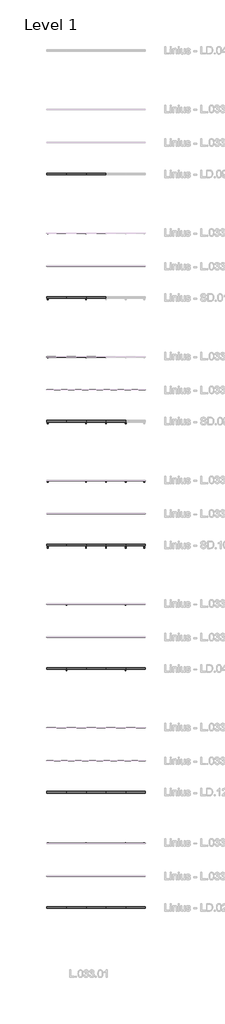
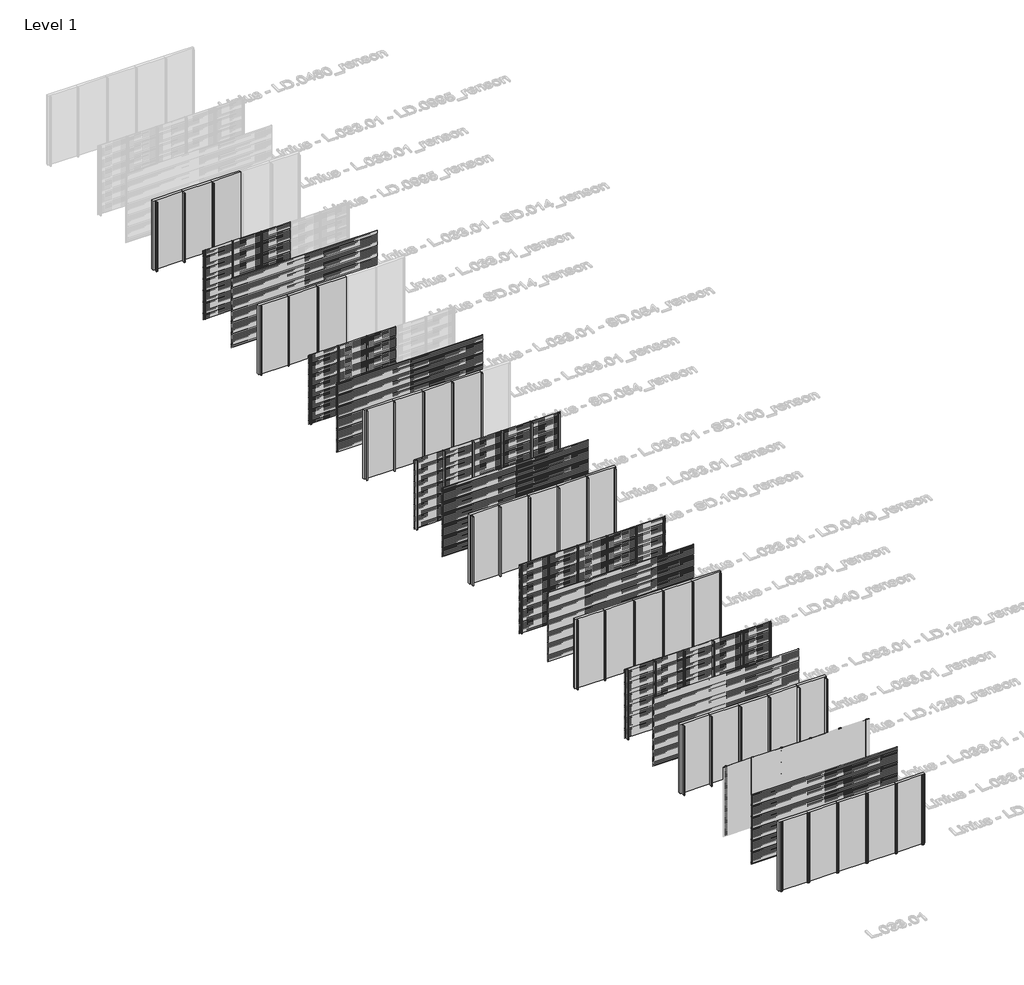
# One storey, part 1 of 507: 65 members, 62 plates.
"""IFC4 building model written with IfcOpenShell, lengths in millimetres."""

from ifc_helpers import new_model, si_unit, origin, origin_with_axes, place, context, project, spatial, polyline, outline, extrude, transform, mapped, element, save
from components import rectangular_mullion_fb497acc, rectangular_mullion_3facce28, rectangular_mullion_6cf2c509, rectangular_mullion_8b77bd57, rectangular_mullion_2c867e25, rectangular_mullion_7803f5c4, rectangular_mullion_82152e2f, rectangular_mullion_bd250e2e, rectangular_mullion_2b84ad7e, rectangular_mullion_9b796d85, rectangular_mullion_6132f1f1, rectangular_mullion_8f153c19, rectangular_mullion_5b30f3fd, rectangular_mullion_5e0e8e0a, rectangular_mullion_d2d38772, rectangular_mullion_efb80f74, rectangular_mullion_aaa1fb1b, rectangular_mullion_ea9d012c, rectangular_mullion_d7a6ae85, rectangular_mullion_1457c40f, rectangular_mullion_7ff0ea34, empty_system_panel_empty_aabbdda4

model = new_model("IFC4")

# Units and contexts
model_context = context("Model", 3, world=origin())
ifc_project = project(units=[si_unit("LENGTHUNIT", "METRE", prefix="MILLI")], contexts=[model_context])

# Site, building, storey
site = spatial("IfcSite", under=ifc_project)
building = spatial("IfcBuilding", under=site)
storey = spatial("IfcBuildingStorey", under=building, Name="Level 1", Elevation=0.0)

# Members
placement = place(None, origin())
rectangular_mullion_shape = rectangular_mullion_fb497acc(model_context)
element("IfcMember", 1, ObjectType="Rectangular Mullion : LD.0995_renson", at=placement, inside=storey, context=model_context, shape_type="MappedRepresentation", body=[
    mapped(rectangular_mullion_shape, transform((47366.6208097, 47481.0540136, 0.0), x_axis=(-1.0, 0.0, 0.0), y_axis=(0.0, 1.0, 0.0), z_axis=(0.0, 0.0, -1.0))),
])
element("IfcMember", 2, ObjectType="Rectangular Mullion : LD.0995_renson", at=placement, inside=storey, context=model_context, shape_type="MappedRepresentation", body=[
    mapped(rectangular_mullion_shape, transform((46166.6208099, 47481.0540136, 0.0), x_axis=(-1.0, 0.0, 0.0), y_axis=(0.0, 1.0, 0.0), z_axis=(0.0, 0.0, -1.0))),
])
rectangular_mullion_2_shape = rectangular_mullion_3facce28(model_context)
element("IfcMember", 3, ObjectType="Rectangular Mullion : SD.014_renson", at=placement, inside=storey, context=model_context, shape_type="MappedRepresentation", body=[
    mapped(rectangular_mullion_2_shape, transform((47366.6208097, 43981.0540136, 0.0), x_axis=(-1.0, 0.0, 0.0), y_axis=(0.0, 1.0, 0.0), z_axis=(0.0, 0.0, -1.0))),
])
element("IfcMember", 4, ObjectType="Rectangular Mullion : SD.014_renson", at=placement, inside=storey, context=model_context, shape_type="MappedRepresentation", body=[
    mapped(rectangular_mullion_2_shape, transform((46166.6208099, 43981.0540136, 0.0), x_axis=(-1.0, 0.0, 0.0), y_axis=(0.0, 1.0, 0.0), z_axis=(0.0, 0.0, -1.0))),
])
element("IfcMember", 5, ObjectType="Rectangular Mullion : SD.014_renson", at=placement, inside=storey, context=model_context, shape_type="MappedRepresentation", body=[
    mapped(rectangular_mullion_2_shape, transform((47366.6208097, 39981.0540136, 0.0), x_axis=(-1.0, 0.0, 0.0), y_axis=(0.0, 1.0, 0.0), z_axis=(0.0, 0.0, -1.0))),
])
element("IfcMember", 6, ObjectType="Rectangular Mullion : SD.014_renson", at=placement, inside=storey, context=model_context, shape_type="MappedRepresentation", body=[
    mapped(rectangular_mullion_2_shape, transform((46166.6208099, 39981.0540136, 0.0), x_axis=(-1.0, 0.0, 0.0), y_axis=(0.0, 1.0, 0.0), z_axis=(0.0, 0.0, -1.0))),
])
rectangular_mullion_3_shape = rectangular_mullion_6cf2c509(model_context)
element("IfcMember", 7, ObjectType="Rectangular Mullion : SD.054_renson", at=placement, inside=storey, context=model_context, shape_type="MappedRepresentation", body=[
    mapped(rectangular_mullion_3_shape, transform((47366.6208097, 36481.0540136, 0.0), x_axis=(-1.0, 0.0, 0.0), y_axis=(0.0, 1.0, 0.0), z_axis=(0.0, 0.0, -1.0))),
])
element("IfcMember", 8, ObjectType="Rectangular Mullion : SD.054_renson", at=placement, inside=storey, context=model_context, shape_type="MappedRepresentation", body=[
    mapped(rectangular_mullion_3_shape, transform((46166.6208099, 36481.0540136, 0.0), x_axis=(-1.0, 0.0, 0.0), y_axis=(0.0, 1.0, 0.0), z_axis=(0.0, 0.0, -1.0))),
])
element("IfcMember", 9, ObjectType="Rectangular Mullion : SD.054_renson", at=placement, inside=storey, context=model_context, shape_type="MappedRepresentation", body=[
    mapped(rectangular_mullion_3_shape, transform((49766.6208095, 32481.0540136, 0.0), x_axis=(-1.0, 0.0, 0.0), y_axis=(0.0, 1.0, 0.0), z_axis=(0.0, 0.0, -1.0))),
])
element("IfcMember", 10, ObjectType="Rectangular Mullion : SD.054_renson", at=placement, inside=storey, context=model_context, shape_type="MappedRepresentation", body=[
    mapped(rectangular_mullion_3_shape, transform((48566.6208096, 32481.0540136, 0.0), x_axis=(-1.0, 0.0, 0.0), y_axis=(0.0, 1.0, 0.0), z_axis=(0.0, 0.0, -1.0))),
])
element("IfcMember", 11, ObjectType="Rectangular Mullion : SD.054_renson", at=placement, inside=storey, context=model_context, shape_type="MappedRepresentation", body=[
    mapped(rectangular_mullion_3_shape, transform((47366.6208097, 32481.0540136, 0.0), x_axis=(-1.0, 0.0, 0.0), y_axis=(0.0, 1.0, 0.0), z_axis=(0.0, 0.0, -1.0))),
])
element("IfcMember", 12, ObjectType="Rectangular Mullion : SD.054_renson", at=placement, inside=storey, context=model_context, shape_type="MappedRepresentation", body=[
    mapped(rectangular_mullion_3_shape, transform((46166.6208099, 32481.0540136, 0.0), x_axis=(-1.0, 0.0, 0.0), y_axis=(0.0, 1.0, 0.0), z_axis=(0.0, 0.0, -1.0))),
])
rectangular_mullion_4_shape = rectangular_mullion_8b77bd57(model_context)
element("IfcMember", 13, ObjectType="Rectangular Mullion : SD.100_renson", at=placement, inside=storey, context=model_context, shape_type="MappedRepresentation", body=[
    mapped(rectangular_mullion_4_shape, transform((49766.6208095, 28981.0540136, 0.0), x_axis=(-1.0, 0.0, 0.0), y_axis=(0.0, 1.0, 0.0), z_axis=(0.0, 0.0, -1.0))),
])
element("IfcMember", 14, ObjectType="Rectangular Mullion : SD.100_renson", at=placement, inside=storey, context=model_context, shape_type="MappedRepresentation", body=[
    mapped(rectangular_mullion_4_shape, transform((48566.6208096, 28981.0540136, 0.0), x_axis=(-1.0, 0.0, 0.0), y_axis=(0.0, 1.0, 0.0), z_axis=(0.0, 0.0, -1.0))),
])
element("IfcMember", 15, ObjectType="Rectangular Mullion : SD.100_renson", at=placement, inside=storey, context=model_context, shape_type="MappedRepresentation", body=[
    mapped(rectangular_mullion_4_shape, transform((47366.6208097, 28981.0540136, 0.0), x_axis=(-1.0, 0.0, 0.0), y_axis=(0.0, 1.0, 0.0), z_axis=(0.0, 0.0, -1.0))),
])
element("IfcMember", 16, ObjectType="Rectangular Mullion : SD.100_renson", at=placement, inside=storey, context=model_context, shape_type="MappedRepresentation", body=[
    mapped(rectangular_mullion_4_shape, transform((46166.6208099, 28981.0540136, 0.0), x_axis=(-1.0, 0.0, 0.0), y_axis=(0.0, 1.0, 0.0), z_axis=(0.0, 0.0, -1.0))),
])
element("IfcMember", 17, ObjectType="Rectangular Mullion : SD.100_renson", at=placement, inside=storey, context=model_context, shape_type="MappedRepresentation", body=[
    mapped(rectangular_mullion_4_shape, transform((49766.6208095, 24981.0540136, 0.0), x_axis=(-1.0, 0.0, 0.0), y_axis=(0.0, 1.0, 0.0), z_axis=(0.0, 0.0, -1.0))),
])
element("IfcMember", 18, ObjectType="Rectangular Mullion : SD.100_renson", at=placement, inside=storey, context=model_context, shape_type="MappedRepresentation", body=[
    mapped(rectangular_mullion_4_shape, transform((48566.6208096, 24981.0540136, 0.0), x_axis=(-1.0, 0.0, 0.0), y_axis=(0.0, 1.0, 0.0), z_axis=(0.0, 0.0, -1.0))),
])
element("IfcMember", 19, ObjectType="Rectangular Mullion : SD.100_renson", at=placement, inside=storey, context=model_context, shape_type="MappedRepresentation", body=[
    mapped(rectangular_mullion_4_shape, transform((47366.6208097, 24981.0540136, 0.0), x_axis=(-1.0, 0.0, 0.0), y_axis=(0.0, 1.0, 0.0), z_axis=(0.0, 0.0, -1.0))),
])
element("IfcMember", 20, ObjectType="Rectangular Mullion : SD.100_renson", at=placement, inside=storey, context=model_context, shape_type="MappedRepresentation", body=[
    mapped(rectangular_mullion_4_shape, transform((46166.6208099, 24981.0540136, 0.0), x_axis=(-1.0, 0.0, 0.0), y_axis=(0.0, 1.0, 0.0), z_axis=(0.0, 0.0, -1.0))),
])
rectangular_mullion_5_shape = rectangular_mullion_2c867e25(model_context)
element("IfcMember", 21, ObjectType="Rectangular Mullion : LD.0440_renson", at=placement, inside=storey, context=model_context, shape_type="MappedRepresentation", body=[
    mapped(rectangular_mullion_5_shape, transform((49766.6208095, 21481.0540136, 0.0), x_axis=(-1.0, 0.0, 0.0), y_axis=(0.0, 1.0, 0.0), z_axis=(0.0, 0.0, -1.0))),
])
element("IfcMember", 22, ObjectType="Rectangular Mullion : LD.0440_renson", at=placement, inside=storey, context=model_context, shape_type="MappedRepresentation", body=[
    mapped(rectangular_mullion_5_shape, transform((48566.6208096, 21481.0540136, 0.0), x_axis=(-1.0, 0.0, 0.0), y_axis=(0.0, 1.0, 0.0), z_axis=(0.0, 0.0, -1.0))),
])
element("IfcMember", 23, ObjectType="Rectangular Mullion : LD.0440_renson", at=placement, inside=storey, context=model_context, shape_type="MappedRepresentation", body=[
    mapped(rectangular_mullion_5_shape, transform((47366.6208097, 21481.0540136, 0.0), x_axis=(-1.0, 0.0, 0.0), y_axis=(0.0, 1.0, 0.0), z_axis=(0.0, 0.0, -1.0))),
])
element("IfcMember", 24, ObjectType="Rectangular Mullion : LD.0440_renson", at=placement, inside=storey, context=model_context, shape_type="MappedRepresentation", body=[
    mapped(rectangular_mullion_5_shape, transform((46166.6208099, 21481.0540136, 0.0), x_axis=(-1.0, 0.0, 0.0), y_axis=(0.0, 1.0, 0.0), z_axis=(0.0, 0.0, -1.0))),
])
element("IfcMember", 25, ObjectType="Rectangular Mullion : LD.0440_renson", at=placement, inside=storey, context=model_context, shape_type="MappedRepresentation", body=[
    mapped(rectangular_mullion_5_shape, transform((49766.6208095, 17481.0540136, 0.0), x_axis=(-1.0, 0.0, 0.0), y_axis=(0.0, 1.0, 0.0), z_axis=(0.0, 0.0, -1.0))),
])
element("IfcMember", 26, ObjectType="Rectangular Mullion : LD.0440_renson", at=placement, inside=storey, context=model_context, shape_type="MappedRepresentation", body=[
    mapped(rectangular_mullion_5_shape, transform((48566.6208096, 17481.0540136, 0.0), x_axis=(-1.0, 0.0, 0.0), y_axis=(0.0, 1.0, 0.0), z_axis=(0.0, 0.0, -1.0))),
])
element("IfcMember", 27, ObjectType="Rectangular Mullion : LD.0440_renson", at=placement, inside=storey, context=model_context, shape_type="MappedRepresentation", body=[
    mapped(rectangular_mullion_5_shape, transform((47366.6208097, 17481.0540136, 0.0), x_axis=(-1.0, 0.0, 0.0), y_axis=(0.0, 1.0, 0.0), z_axis=(0.0, 0.0, -1.0))),
])
element("IfcMember", 28, ObjectType="Rectangular Mullion : LD.0440_renson", at=placement, inside=storey, context=model_context, shape_type="MappedRepresentation", body=[
    mapped(rectangular_mullion_5_shape, transform((46166.6208099, 17481.0540136, 0.0), x_axis=(-1.0, 0.0, 0.0), y_axis=(0.0, 1.0, 0.0), z_axis=(0.0, 0.0, -1.0))),
])
rectangular_mullion_6_shape = rectangular_mullion_7803f5c4(model_context)
element("IfcMember", 29, ObjectType="Rectangular Mullion : LD.1250_renson", at=placement, inside=storey, context=model_context, shape_type="MappedRepresentation", body=[
    mapped(rectangular_mullion_6_shape, transform((49766.6208095, 13981.0540136, 0.0), x_axis=(-1.0, 0.0, 0.0), y_axis=(0.0, 1.0, 0.0), z_axis=(0.0, 0.0, -1.0))),
])
element("IfcMember", 30, ObjectType="Rectangular Mullion : LD.1250_renson", at=placement, inside=storey, context=model_context, shape_type="MappedRepresentation", body=[
    mapped(rectangular_mullion_6_shape, transform((48566.6208096, 13981.0540136, 0.0), x_axis=(-1.0, 0.0, 0.0), y_axis=(0.0, 1.0, 0.0), z_axis=(0.0, 0.0, -1.0))),
])
element("IfcMember", 31, ObjectType="Rectangular Mullion : LD.1250_renson", at=placement, inside=storey, context=model_context, shape_type="MappedRepresentation", body=[
    mapped(rectangular_mullion_6_shape, transform((47366.6208097, 13981.0540136, 0.0), x_axis=(-1.0, 0.0, 0.0), y_axis=(0.0, 1.0, 0.0), z_axis=(0.0, 0.0, -1.0))),
])
element("IfcMember", 32, ObjectType="Rectangular Mullion : LD.1250_renson", at=placement, inside=storey, context=model_context, shape_type="MappedRepresentation", body=[
    mapped(rectangular_mullion_6_shape, transform((46166.6208099, 13981.0540136, 0.0), x_axis=(-1.0, 0.0, 0.0), y_axis=(0.0, 1.0, 0.0), z_axis=(0.0, 0.0, -1.0))),
])
element("IfcMember", 33, ObjectType="Rectangular Mullion : LD.1250_renson", at=placement, inside=storey, context=model_context, shape_type="MappedRepresentation", body=[
    mapped(rectangular_mullion_6_shape, transform((49766.6208095, 9981.0540136, 0.0), x_axis=(-1.0, 0.0, 0.0), y_axis=(0.0, 1.0, 0.0), z_axis=(0.0, 0.0, -1.0))),
])
element("IfcMember", 34, ObjectType="Rectangular Mullion : LD.1250_renson", at=placement, inside=storey, context=model_context, shape_type="MappedRepresentation", body=[
    mapped(rectangular_mullion_6_shape, transform((48566.6208096, 9981.0540136, 0.0), x_axis=(-1.0, 0.0, 0.0), y_axis=(0.0, 1.0, 0.0), z_axis=(0.0, 0.0, -1.0))),
])
element("IfcMember", 35, ObjectType="Rectangular Mullion : LD.1250_renson", at=placement, inside=storey, context=model_context, shape_type="MappedRepresentation", body=[
    mapped(rectangular_mullion_6_shape, transform((47366.6208097, 9981.0540136, 0.0), x_axis=(-1.0, 0.0, 0.0), y_axis=(0.0, 1.0, 0.0), z_axis=(0.0, 0.0, -1.0))),
])
element("IfcMember", 36, ObjectType="Rectangular Mullion : LD.1250_renson", at=placement, inside=storey, context=model_context, shape_type="MappedRepresentation", body=[
    mapped(rectangular_mullion_6_shape, transform((46166.6208099, 9981.0540136, 0.0), x_axis=(-1.0, 0.0, 0.0), y_axis=(0.0, 1.0, 0.0), z_axis=(0.0, 0.0, -1.0))),
])
rectangular_mullion_7_shape = rectangular_mullion_82152e2f(model_context)
element("IfcMember", 37, ObjectType="Rectangular Mullion : LD.0240_renson", at=placement, inside=storey, context=model_context, shape_type="MappedRepresentation", body=[
    mapped(rectangular_mullion_7_shape, transform((49766.6208095, 2985.0270068, 0.0), x_axis=(-1.0, 0.0, 0.0), y_axis=(0.0, 1.0, 0.0), z_axis=(0.0, 0.0, -1.0))),
])
element("IfcMember", 38, ObjectType="Rectangular Mullion : LD.0240_renson", at=placement, inside=storey, context=model_context, shape_type="MappedRepresentation", body=[
    mapped(rectangular_mullion_7_shape, transform((48566.6208096, 2985.0270068, 0.0), x_axis=(-1.0, 0.0, 0.0), y_axis=(0.0, 1.0, 0.0), z_axis=(0.0, 0.0, -1.0))),
])
element("IfcMember", 39, ObjectType="Rectangular Mullion : LD.0240_renson", at=placement, inside=storey, context=model_context, shape_type="MappedRepresentation", body=[
    mapped(rectangular_mullion_7_shape, transform((47366.6208097, 2985.0270068, 0.0), x_axis=(-1.0, 0.0, 0.0), y_axis=(0.0, 1.0, 0.0), z_axis=(0.0, 0.0, -1.0))),
])
element("IfcMember", 40, ObjectType="Rectangular Mullion : LD.0240_renson", at=placement, inside=storey, context=model_context, shape_type="MappedRepresentation", body=[
    mapped(rectangular_mullion_7_shape, transform((46166.6208099, 2985.0270068, 0.0), x_axis=(-1.0, 0.0, 0.0), y_axis=(0.0, 1.0, 0.0), z_axis=(0.0, 0.0, -1.0))),
])
rectangular_mullion_8_shape = rectangular_mullion_bd250e2e(model_context)
element("IfcMember", 41, ObjectType="Rectangular Mullion : LD.0995 - left_renson", at=placement, inside=storey, context=model_context, shape_type="MappedRepresentation", body=[
    mapped(rectangular_mullion_8_shape, transform((44966.6208097, 47481.0540136, 0.0), x_axis=(-1.0, 0.0, 0.0), y_axis=(0.0, 1.0, 0.0), z_axis=(0.0, 0.0, -1.0))),
])
rectangular_mullion_9_shape = rectangular_mullion_2b84ad7e(model_context)
element("IfcMember", 42, ObjectType="Rectangular Mullion : SD.014 - left_renson", at=placement, inside=storey, context=model_context, shape_type="MappedRepresentation", body=[
    mapped(rectangular_mullion_9_shape, transform((44966.6208097, 43981.0540136, 0.0), x_axis=(-1.0, 0.0, 0.0), y_axis=(0.0, 1.0, 0.0), z_axis=(0.0, 0.0, -1.0))),
])
element("IfcMember", 43, ObjectType="Rectangular Mullion : SD.014 - left_renson", at=placement, inside=storey, context=model_context, shape_type="MappedRepresentation", body=[
    mapped(rectangular_mullion_9_shape, transform((44966.6208097, 39981.0540136, 0.0), x_axis=(-1.0, 0.0, 0.0), y_axis=(0.0, 1.0, 0.0), z_axis=(0.0, 0.0, -1.0))),
])
rectangular_mullion_10_shape = rectangular_mullion_9b796d85(model_context)
element("IfcMember", 44, ObjectType="Rectangular Mullion : SD.054 - left_renson", at=placement, inside=storey, context=model_context, shape_type="MappedRepresentation", body=[
    mapped(rectangular_mullion_10_shape, transform((44966.6208097, 36481.0540136, 0.0), x_axis=(-1.0, 0.0, 0.0), y_axis=(0.0, 1.0, 0.0), z_axis=(0.0, 0.0, -1.0))),
])
element("IfcMember", 45, ObjectType="Rectangular Mullion : SD.054 - left_renson", at=placement, inside=storey, context=model_context, shape_type="MappedRepresentation", body=[
    mapped(rectangular_mullion_10_shape, transform((44966.6208097, 32481.0540136, 0.0), x_axis=(-1.0, 0.0, 0.0), y_axis=(0.0, 1.0, 0.0), z_axis=(0.0, 0.0, -1.0))),
])
rectangular_mullion_11_shape = rectangular_mullion_6132f1f1(model_context)
element("IfcMember", 46, ObjectType="Rectangular Mullion : SD.100 - left_renson", at=placement, inside=storey, context=model_context, shape_type="MappedRepresentation", body=[
    mapped(rectangular_mullion_11_shape, transform((44966.6208097, 28981.0540136, 0.0), x_axis=(-1.0, 0.0, 0.0), y_axis=(0.0, 1.0, 0.0), z_axis=(0.0, 0.0, -1.0))),
])
element("IfcMember", 47, ObjectType="Rectangular Mullion : SD.100 - left_renson", at=placement, inside=storey, context=model_context, shape_type="MappedRepresentation", body=[
    mapped(rectangular_mullion_11_shape, transform((44966.6208097, 24981.0540136, 0.0), x_axis=(-1.0, 0.0, 0.0), y_axis=(0.0, 1.0, 0.0), z_axis=(0.0, 0.0, -1.0))),
])
rectangular_mullion_12_shape = rectangular_mullion_8f153c19(model_context)
element("IfcMember", 48, ObjectType="Rectangular Mullion : SD.100 - right_renson", at=placement, inside=storey, context=model_context, shape_type="MappedRepresentation", body=[
    mapped(rectangular_mullion_12_shape, transform((50966.6208097, 28981.0540136, 3000.0), x_axis=(1.0, 0.0, 0.0), y_axis=(0.0, 1.0, 0.0), z_axis=(0.0, 0.0, 1.0))),
])
element("IfcMember", 49, ObjectType="Rectangular Mullion : SD.100 - right_renson", at=placement, inside=storey, context=model_context, shape_type="MappedRepresentation", body=[
    mapped(rectangular_mullion_12_shape, transform((50966.6208097, 24981.0540136, 3000.0), x_axis=(1.0, 0.0, 0.0), y_axis=(0.0, 1.0, 0.0), z_axis=(0.0, 0.0, 1.0))),
])
rectangular_mullion_13_shape = rectangular_mullion_5b30f3fd(model_context)
element("IfcMember", 50, ObjectType="Rectangular Mullion : LD.0440 - left_renson", at=placement, inside=storey, context=model_context, shape_type="MappedRepresentation", body=[
    mapped(rectangular_mullion_13_shape, transform((44966.6208097, 21481.0540136, 0.0), x_axis=(-1.0, 0.0, 0.0), y_axis=(0.0, 1.0, 0.0), z_axis=(0.0, 0.0, -1.0))),
])
element("IfcMember", 51, ObjectType="Rectangular Mullion : LD.0440 - left_renson", at=placement, inside=storey, context=model_context, shape_type="MappedRepresentation", body=[
    mapped(rectangular_mullion_13_shape, transform((44966.6208097, 17481.0540136, 0.0), x_axis=(-1.0, 0.0, 0.0), y_axis=(0.0, 1.0, 0.0), z_axis=(0.0, 0.0, -1.0))),
])
rectangular_mullion_14_shape = rectangular_mullion_5e0e8e0a(model_context)
element("IfcMember", 52, ObjectType="Rectangular Mullion : LD.0440 - right_renson", at=placement, inside=storey, context=model_context, shape_type="MappedRepresentation", body=[
    mapped(rectangular_mullion_14_shape, transform((50966.6208097, 21481.0540136, 3000.0), x_axis=(1.0, 0.0, 0.0), y_axis=(0.0, 1.0, 0.0), z_axis=(0.0, 0.0, 1.0))),
])
element("IfcMember", 53, ObjectType="Rectangular Mullion : LD.0440 - right_renson", at=placement, inside=storey, context=model_context, shape_type="MappedRepresentation", body=[
    mapped(rectangular_mullion_14_shape, transform((50966.6208097, 17481.0540136, 3000.0), x_axis=(1.0, 0.0, 0.0), y_axis=(0.0, 1.0, 0.0), z_axis=(0.0, 0.0, 1.0))),
])
rectangular_mullion_15_shape = rectangular_mullion_d2d38772(model_context)
element("IfcMember", 54, ObjectType="Rectangular Mullion : LD.1250 - left_renson", at=placement, inside=storey, context=model_context, shape_type="MappedRepresentation", body=[
    mapped(rectangular_mullion_15_shape, transform((44966.6208097, 13981.0540136, 0.0), x_axis=(-1.0, 0.0, 0.0), y_axis=(0.0, 1.0, 0.0), z_axis=(0.0, 0.0, -1.0))),
])
element("IfcMember", 55, ObjectType="Rectangular Mullion : LD.1250 - left_renson", at=placement, inside=storey, context=model_context, shape_type="MappedRepresentation", body=[
    mapped(rectangular_mullion_15_shape, transform((44966.6208097, 9981.0540136, 0.0), x_axis=(-1.0, 0.0, 0.0), y_axis=(0.0, 1.0, 0.0), z_axis=(0.0, 0.0, -1.0))),
])
rectangular_mullion_16_shape = rectangular_mullion_efb80f74(model_context)
element("IfcMember", 56, ObjectType="Rectangular Mullion : LD.1250 - right_renson", at=placement, inside=storey, context=model_context, shape_type="MappedRepresentation", body=[
    mapped(rectangular_mullion_16_shape, transform((50966.6208097, 13981.0540136, 3000.0), x_axis=(1.0, 0.0, 0.0), y_axis=(0.0, 1.0, 0.0), z_axis=(0.0, 0.0, 1.0))),
])
element("IfcMember", 57, ObjectType="Rectangular Mullion : LD.1250 - right_renson", at=placement, inside=storey, context=model_context, shape_type="MappedRepresentation", body=[
    mapped(rectangular_mullion_16_shape, transform((50966.6208097, 9981.0540136, 3000.0), x_axis=(1.0, 0.0, 0.0), y_axis=(0.0, 1.0, 0.0), z_axis=(0.0, 0.0, 1.0))),
])
rectangular_mullion_17_shape = rectangular_mullion_aaa1fb1b(model_context)
element("IfcMember", 58, ObjectType="Rectangular Mullion : LD.0240 - left_renson", at=placement, inside=storey, context=model_context, shape_type="MappedRepresentation", body=[
    mapped(rectangular_mullion_17_shape, transform((44966.6208097, 2985.0270068, 0.0), x_axis=(-1.0, 0.0, 0.0), y_axis=(0.0, 1.0, 0.0), z_axis=(0.0, 0.0, -1.0))),
])
rectangular_mullion_18_shape = rectangular_mullion_ea9d012c(model_context)
element("IfcMember", 59, ObjectType="Rectangular Mullion : LD.0240 - right_renson", at=placement, inside=storey, context=model_context, shape_type="MappedRepresentation", body=[
    mapped(rectangular_mullion_18_shape, transform((50966.6208097, 2985.0270068, 3000.0), x_axis=(1.0, 0.0, 0.0), y_axis=(0.0, 1.0, 0.0), z_axis=(0.0, 0.0, 1.0))),
])
rectangular_mullion_19_shape = rectangular_mullion_d7a6ae85(model_context)
element("IfcMember", 60, ObjectType="Rectangular Mullion : LD.0240_renson", at=placement, inside=storey, context=model_context, shape_type="MappedRepresentation", body=[
    mapped(rectangular_mullion_19_shape, transform((49766.6208095, 6985.0270068, 0.0), x_axis=(-1.0, 0.0, 0.0), y_axis=(0.0, 1.0, 0.0), z_axis=(0.0, 0.0, -1.0))),
])
element("IfcMember", 61, ObjectType="Rectangular Mullion : LD.0240_renson", at=placement, inside=storey, context=model_context, shape_type="MappedRepresentation", body=[
    mapped(rectangular_mullion_19_shape, transform((48566.6208096, 6985.0270068, 0.0), x_axis=(-1.0, 0.0, 0.0), y_axis=(0.0, 1.0, 0.0), z_axis=(0.0, 0.0, -1.0))),
])
element("IfcMember", 62, ObjectType="Rectangular Mullion : LD.0240_renson", at=placement, inside=storey, context=model_context, shape_type="MappedRepresentation", body=[
    mapped(rectangular_mullion_19_shape, transform((47366.6208097, 6985.0270068, 0.0), x_axis=(-1.0, 0.0, 0.0), y_axis=(0.0, 1.0, 0.0), z_axis=(0.0, 0.0, -1.0))),
])
element("IfcMember", 63, ObjectType="Rectangular Mullion : LD.0240_renson", at=placement, inside=storey, context=model_context, shape_type="MappedRepresentation", body=[
    mapped(rectangular_mullion_19_shape, transform((46166.6208099, 6985.0270068, 0.0), x_axis=(-1.0, 0.0, 0.0), y_axis=(0.0, 1.0, 0.0), z_axis=(0.0, 0.0, -1.0))),
])
rectangular_mullion_20_shape = rectangular_mullion_1457c40f(model_context)
element("IfcMember", 64, ObjectType="Rectangular Mullion : LD.0240 - left_renson", at=placement, inside=storey, context=model_context, shape_type="MappedRepresentation", body=[
    mapped(rectangular_mullion_20_shape, transform((44966.6208097, 6985.0270068, 0.0), x_axis=(-1.0, 0.0, 0.0), y_axis=(0.0, 1.0, 0.0), z_axis=(0.0, 0.0, -1.0))),
])
rectangular_mullion_21_shape = rectangular_mullion_7ff0ea34(model_context)
element("IfcMember", 65, ObjectType="Rectangular Mullion : LD.0240 - right_renson", at=placement, inside=storey, context=model_context, shape_type="MappedRepresentation", body=[
    mapped(rectangular_mullion_21_shape, transform((50966.6208097, 6985.0270068, 3000.0), x_axis=(1.0, 0.0, 0.0), y_axis=(0.0, 1.0, 0.0), z_axis=(0.0, 0.0, 1.0))),
])

# Plates
element("IfcPlate", 66, ObjectType="Linius - L.033.01_renson", at=placement, inside=storey, context=model_context, shape_type="SweptSolid", body=[
    extrude(outline(polyline([(44966.6208097, 43982.0540136), (46166.6208099, 43982.0540136), (46166.6208099, 43980.0540136), (44966.6208097, 43980.0540136), (44966.6208097, 43982.0540136)])), origin_with_axes(), (0.0, 0.0, 1.0), 3000.0),
])
element("IfcPlate", 67, ObjectType="Linius - L.033.01_renson", at=placement, inside=storey, context=model_context, shape_type="SweptSolid", body=[
    extrude(outline(polyline([(46166.6208099, 43982.0540136), (47366.6208097, 43982.0540136), (47366.6208097, 43980.0540136), (46166.6208099, 43980.0540136), (46166.6208099, 43982.0540136)])), origin_with_axes(), (0.0, 0.0, 1.0), 3000.0),
])
element("IfcPlate", 68, ObjectType="Linius - L.033.01_renson", at=placement, inside=storey, context=model_context, shape_type="SweptSolid", body=[
    extrude(outline(polyline([(47366.6208097, 43982.0540136), (48566.6208096, 43982.0540136), (48566.6208096, 43980.0540136), (47366.6208097, 43980.0540136), (47366.6208097, 43982.0540136)])), origin_with_axes(), (0.0, 0.0, 1.0), 3000.0),
])
element("IfcPlate", 69, ObjectType="Linius - L.033.01_renson", at=placement, inside=storey, context=model_context, shape_type="SweptSolid", body=[
    extrude(outline(polyline([(44966.6208097, 41982.0540136), (50966.6208097, 41982.0540136), (50966.6208097, 41980.0540136), (44966.6208097, 41980.0540136), (44966.6208097, 41982.0540136)])), origin_with_axes(), (0.0, 0.0, 1.0), 3000.0),
])
element("IfcPlate", 70, ObjectType="Linius - L.033.01_renson", at=placement, inside=storey, context=model_context, shape_type="SweptSolid", body=[
    extrude(outline(polyline([(44966.6208097, 36482.0540136), (46166.6208099, 36482.0540136), (46166.6208099, 36480.0540136), (44966.6208097, 36480.0540136), (44966.6208097, 36482.0540136)])), origin_with_axes(), (0.0, 0.0, 1.0), 3000.0),
])
element("IfcPlate", 71, ObjectType="Linius - L.033.01_renson", at=placement, inside=storey, context=model_context, shape_type="SweptSolid", body=[
    extrude(outline(polyline([(46166.6208099, 36482.0540136), (47366.6208097, 36482.0540136), (47366.6208097, 36480.0540136), (46166.6208099, 36480.0540136), (46166.6208099, 36482.0540136)])), origin_with_axes(), (0.0, 0.0, 1.0), 3000.0),
])
element("IfcPlate", 72, ObjectType="Linius - L.033.01_renson", at=placement, inside=storey, context=model_context, shape_type="SweptSolid", body=[
    extrude(outline(polyline([(47366.6208097, 36482.0540136), (48566.6208096, 36482.0540136), (48566.6208096, 36480.0540136), (47366.6208097, 36480.0540136), (47366.6208097, 36482.0540136)])), origin_with_axes(), (0.0, 0.0, 1.0), 3000.0),
])
element("IfcPlate", 73, ObjectType="Linius - L.033.01_renson", at=placement, inside=storey, context=model_context, shape_type="SweptSolid", body=[
    extrude(outline(polyline([(44966.6208097, 34482.0540136), (50966.6208097, 34482.0540136), (50966.6208097, 34480.0540136), (44966.6208097, 34480.0540136), (44966.6208097, 34482.0540136)])), origin_with_axes(), (0.0, 0.0, 1.0), 3000.0),
])
element("IfcPlate", 74, ObjectType="Linius - L.033.01_renson", at=placement, inside=storey, context=model_context, shape_type="SweptSolid", body=[
    extrude(outline(polyline([(44966.6208097, 28982.0540136), (46166.6208099, 28982.0540136), (46166.6208099, 28980.0540136), (44966.6208097, 28980.0540136), (44966.6208097, 28982.0540136)])), origin_with_axes(), (0.0, 0.0, 1.0), 3000.0),
])
element("IfcPlate", 75, ObjectType="Linius - L.033.01_renson", at=placement, inside=storey, context=model_context, shape_type="SweptSolid", body=[
    extrude(outline(polyline([(46166.6208099, 28982.0540136), (47366.6208097, 28982.0540136), (47366.6208097, 28980.0540136), (46166.6208099, 28980.0540136), (46166.6208099, 28982.0540136)])), origin_with_axes(), (0.0, 0.0, 1.0), 3000.0),
])
element("IfcPlate", 76, ObjectType="Linius - L.033.01_renson", at=placement, inside=storey, context=model_context, shape_type="SweptSolid", body=[
    extrude(outline(polyline([(47366.6208097, 28982.0540136), (48566.6208096, 28982.0540136), (48566.6208096, 28980.0540136), (47366.6208097, 28980.0540136), (47366.6208097, 28982.0540136)])), origin_with_axes(), (0.0, 0.0, 1.0), 3000.0),
])
element("IfcPlate", 77, ObjectType="Linius - L.033.01_renson", at=placement, inside=storey, context=model_context, shape_type="SweptSolid", body=[
    extrude(outline(polyline([(48566.6208096, 28982.0540136), (49766.6208095, 28982.0540136), (49766.6208095, 28980.0540136), (48566.6208096, 28980.0540136), (48566.6208096, 28982.0540136)])), origin_with_axes(), (0.0, 0.0, 1.0), 3000.0),
])
element("IfcPlate", 78, ObjectType="Linius - L.033.01_renson", at=placement, inside=storey, context=model_context, shape_type="SweptSolid", body=[
    extrude(outline(polyline([(44966.6208097, 26982.0540136), (50966.6208097, 26982.0540136), (50966.6208097, 26980.0540136), (44966.6208097, 26980.0540136), (44966.6208097, 26982.0540136)])), origin_with_axes(), (0.0, 0.0, 1.0), 3000.0),
])
element("IfcPlate", 79, ObjectType="Linius - L.033.01_renson", at=placement, inside=storey, context=model_context, shape_type="SweptSolid", body=[
    extrude(outline(polyline([(44966.6208097, 21482.0540136), (46166.6208099, 21482.0540136), (46166.6208099, 21480.0540136), (44966.6208097, 21480.0540136), (44966.6208097, 21482.0540136)])), origin_with_axes(), (0.0, 0.0, 1.0), 3000.0),
])
element("IfcPlate", 80, ObjectType="Linius - L.033.01_renson", at=placement, inside=storey, context=model_context, shape_type="SweptSolid", body=[
    extrude(outline(polyline([(46166.6208099, 21482.0540136), (47366.6208097, 21482.0540136), (47366.6208097, 21480.0540136), (46166.6208099, 21480.0540136), (46166.6208099, 21482.0540136)])), origin_with_axes(), (0.0, 0.0, 1.0), 3000.0),
])
element("IfcPlate", 81, ObjectType="Linius - L.033.01_renson", at=placement, inside=storey, context=model_context, shape_type="SweptSolid", body=[
    extrude(outline(polyline([(47366.6208097, 21482.0540136), (48566.6208096, 21482.0540136), (48566.6208096, 21480.0540136), (47366.6208097, 21480.0540136), (47366.6208097, 21482.0540136)])), origin_with_axes(), (0.0, 0.0, 1.0), 3000.0),
])
element("IfcPlate", 82, ObjectType="Linius - L.033.01_renson", at=placement, inside=storey, context=model_context, shape_type="SweptSolid", body=[
    extrude(outline(polyline([(48566.6208096, 21482.0540136), (49766.6208095, 21482.0540136), (49766.6208095, 21480.0540136), (48566.6208096, 21480.0540136), (48566.6208096, 21482.0540136)])), origin_with_axes(), (0.0, 0.0, 1.0), 3000.0),
])
element("IfcPlate", 83, ObjectType="Linius - L.033.01_renson", at=placement, inside=storey, context=model_context, shape_type="SweptSolid", body=[
    extrude(outline(polyline([(44966.6208097, 19482.0540136), (50966.6208097, 19482.0540136), (50966.6208097, 19480.0540136), (44966.6208097, 19480.0540136), (44966.6208097, 19482.0540136)])), origin_with_axes(), (0.0, 0.0, 1.0), 3000.0),
])
element("IfcPlate", 84, ObjectType="Linius - L.033.01_renson", at=placement, inside=storey, context=model_context, shape_type="SweptSolid", body=[
    extrude(outline(polyline([(44966.6208097, 13982.0540136), (46166.6208099, 13982.0540136), (46166.6208099, 13980.0540136), (44966.6208097, 13980.0540136), (44966.6208097, 13982.0540136)])), origin_with_axes(), (0.0, 0.0, 1.0), 3000.0),
])
element("IfcPlate", 85, ObjectType="Linius - L.033.01_renson", at=placement, inside=storey, context=model_context, shape_type="SweptSolid", body=[
    extrude(outline(polyline([(46166.6208099, 13982.0540136), (47366.6208097, 13982.0540136), (47366.6208097, 13980.0540136), (46166.6208099, 13980.0540136), (46166.6208099, 13982.0540136)])), origin_with_axes(), (0.0, 0.0, 1.0), 3000.0),
])
element("IfcPlate", 86, ObjectType="Linius - L.033.01_renson", at=placement, inside=storey, context=model_context, shape_type="SweptSolid", body=[
    extrude(outline(polyline([(47366.6208097, 13982.0540136), (48566.6208096, 13982.0540136), (48566.6208096, 13980.0540136), (47366.6208097, 13980.0540136), (47366.6208097, 13982.0540136)])), origin_with_axes(), (0.0, 0.0, 1.0), 3000.0),
])
element("IfcPlate", 87, ObjectType="Linius - L.033.01_renson", at=placement, inside=storey, context=model_context, shape_type="SweptSolid", body=[
    extrude(outline(polyline([(48566.6208096, 13982.0540136), (49766.6208095, 13982.0540136), (49766.6208095, 13980.0540136), (48566.6208096, 13980.0540136), (48566.6208096, 13982.0540136)])), origin_with_axes(), (0.0, 0.0, 1.0), 3000.0),
])
element("IfcPlate", 88, ObjectType="Linius - L.033.01_renson", at=placement, inside=storey, context=model_context, shape_type="SweptSolid", body=[
    extrude(outline(polyline([(44966.6208097, 11982.0540136), (50966.6208097, 11982.0540136), (50966.6208097, 11980.0540136), (44966.6208097, 11980.0540136), (44966.6208097, 11982.0540136)])), origin_with_axes(), (0.0, 0.0, 1.0), 3000.0),
])
element("IfcPlate", 89, ObjectType="Linius - L.033.01_renson", at=placement, inside=storey, context=model_context, shape_type="SweptSolid", body=[
    extrude(outline(polyline([(44966.6208097, 6986.0270068), (46166.6208099, 6986.0270068), (46166.6208099, 6984.0270068), (44966.6208097, 6984.0270068), (44966.6208097, 6986.0270068)])), origin_with_axes(), (0.0, 0.0, 1.0), 3000.0),
])
element("IfcPlate", 90, ObjectType="Linius - L.033.01_renson", at=placement, inside=storey, context=model_context, shape_type="SweptSolid", body=[
    extrude(outline(polyline([(46166.6208099, 6986.0270068), (47366.6208097, 6986.0270068), (47366.6208097, 6984.0270068), (46166.6208099, 6984.0270068), (46166.6208099, 6986.0270068)])), origin_with_axes(), (0.0, 0.0, 1.0), 3000.0),
])
element("IfcPlate", 91, ObjectType="Linius - L.033.01_renson", at=placement, inside=storey, context=model_context, shape_type="SweptSolid", body=[
    extrude(outline(polyline([(47366.6208097, 6986.0270068), (48566.6208096, 6986.0270068), (48566.6208096, 6984.0270068), (47366.6208097, 6984.0270068), (47366.6208097, 6986.0270068)])), origin_with_axes(), (0.0, 0.0, 1.0), 3000.0),
])
element("IfcPlate", 92, ObjectType="Linius - L.033.01_renson", at=placement, inside=storey, context=model_context, shape_type="SweptSolid", body=[
    extrude(outline(polyline([(48566.6208096, 6986.0270068), (49766.6208095, 6986.0270068), (49766.6208095, 6984.0270068), (48566.6208096, 6984.0270068), (48566.6208096, 6986.0270068)])), origin_with_axes(), (0.0, 0.0, 1.0), 3000.0),
])
element("IfcPlate", 93, ObjectType="Linius - L.033.01_renson", at=placement, inside=storey, context=model_context, shape_type="SweptSolid", body=[
    extrude(outline(polyline([(44966.6208097, 4986.0270068), (50966.6208097, 4986.0270068), (50966.6208097, 4984.0270068), (44966.6208097, 4984.0270068), (44966.6208097, 4986.0270068)])), origin_with_axes(), (0.0, 0.0, 1.0), 3000.0),
])
element("IfcPlate", 94, ObjectType="Linius - L.033.01_renson", at=placement, inside=storey, context=model_context, shape_type="SweptSolid", body=[
    extrude(outline(polyline([(49766.6208095, 6986.0270068), (50966.6208097, 6986.0270068), (50966.6208097, 6984.0270068), (49766.6208095, 6984.0270068), (49766.6208095, 6986.0270068)])), origin_with_axes(), (0.0, 0.0, 1.0), 3000.0),
])
element("IfcPlate", 95, ObjectType="Linius - L.033.01_renson", at=placement, inside=storey, context=model_context, shape_type="SweptSolid", body=[
    extrude(outline(polyline([(49766.6208095, 21482.0540136), (50966.6208097, 21482.0540136), (50966.6208097, 21480.0540136), (49766.6208095, 21480.0540136), (49766.6208095, 21482.0540136)])), origin_with_axes(), (0.0, 0.0, 1.0), 3000.0),
])
element("IfcPlate", 96, ObjectType="Linius - L.033.01_renson", at=placement, inside=storey, context=model_context, shape_type="SweptSolid", body=[
    extrude(outline(polyline([(49766.6208095, 13982.0540136), (50966.6208097, 13982.0540136), (50966.6208097, 13980.0540136), (49766.6208095, 13980.0540136), (49766.6208095, 13982.0540136)])), origin_with_axes(), (0.0, 0.0, 1.0), 3000.0),
])
element("IfcPlate", 97, ObjectType="Linius - L.033.01_renson", at=placement, inside=storey, context=model_context, shape_type="SweptSolid", body=[
    extrude(outline(polyline([(49766.6208095, 28982.0540136), (50966.6208097, 28982.0540136), (50966.6208097, 28980.0540136), (49766.6208095, 28980.0540136), (49766.6208095, 28982.0540136)])), origin_with_axes(), (0.0, 0.0, 1.0), 3000.0),
])
empty_system_panel_empty_shape = empty_system_panel_empty_aabbdda4(model_context)
element("IfcPlate", 98, ObjectType="Empty System Panel : Empty", at=placement, inside=storey, context=model_context, shape_type="MappedRepresentation", body=[
    mapped(empty_system_panel_empty_shape, transform((50366.6208096, 24981.0540136, 0.0), x_axis=(-1.0, 0.0, 0.0), y_axis=(0.0, -1.0, 0.0), z_axis=(0.0, 0.0, 1.0))),
])
element("IfcPlate", 99, ObjectType="Empty System Panel : Empty", at=placement, inside=storey, context=model_context, shape_type="MappedRepresentation", body=[
    mapped(empty_system_panel_empty_shape, transform((50366.6208096, 17481.0540136, 0.0), x_axis=(-1.0, 0.0, 0.0), y_axis=(0.0, -1.0, 0.0), z_axis=(0.0, 0.0, 1.0))),
])
element("IfcPlate", 100, ObjectType="Empty System Panel : Empty", at=placement, inside=storey, context=model_context, shape_type="MappedRepresentation", body=[
    mapped(empty_system_panel_empty_shape, transform((50366.6208096, 9981.0540136, 0.0), x_axis=(-1.0, 0.0, 0.0), y_axis=(0.0, -1.0, 0.0), z_axis=(0.0, 0.0, 1.0))),
])
element("IfcPlate", 101, ObjectType="Empty System Panel : Empty", at=placement, inside=storey, context=model_context, shape_type="MappedRepresentation", body=[
    mapped(empty_system_panel_empty_shape, transform((50366.6208096, 2985.0270068, 0.0), x_axis=(-1.0, 0.0, 0.0), y_axis=(0.0, -1.0, 0.0), z_axis=(0.0, 0.0, 1.0))),
])
element("IfcPlate", 102, ObjectType="Empty System Panel : Empty", at=placement, inside=storey, context=model_context, shape_type="MappedRepresentation", body=[
    mapped(empty_system_panel_empty_shape, transform((47966.6208097, 47481.0540136, 0.0), x_axis=(-1.0, 0.0, 0.0), y_axis=(0.0, -1.0, 0.0), z_axis=(0.0, 0.0, 1.0))),
])
element("IfcPlate", 103, ObjectType="Empty System Panel : Empty", at=placement, inside=storey, context=model_context, shape_type="MappedRepresentation", body=[
    mapped(empty_system_panel_empty_shape, transform((46766.6208098, 47481.0540136, 0.0), x_axis=(-1.0, 0.0, 0.0), y_axis=(0.0, -1.0, 0.0), z_axis=(0.0, 0.0, 1.0))),
])
element("IfcPlate", 104, ObjectType="Empty System Panel : Empty", at=placement, inside=storey, context=model_context, shape_type="MappedRepresentation", body=[
    mapped(empty_system_panel_empty_shape, transform((45566.6208098, 47481.0540136, 0.0), x_axis=(-1.0, 0.0, 0.0), y_axis=(0.0, -1.0, 0.0), z_axis=(0.0, 0.0, 1.0))),
])
element("IfcPlate", 105, ObjectType="Empty System Panel : Empty", at=placement, inside=storey, context=model_context, shape_type="MappedRepresentation", body=[
    mapped(empty_system_panel_empty_shape, transform((47966.6208097, 39981.0540136, 0.0), x_axis=(-1.0, 0.0, 0.0), y_axis=(0.0, -1.0, 0.0), z_axis=(0.0, 0.0, 1.0))),
])
element("IfcPlate", 106, ObjectType="Empty System Panel : Empty", at=placement, inside=storey, context=model_context, shape_type="MappedRepresentation", body=[
    mapped(empty_system_panel_empty_shape, transform((46766.6208098, 39981.0540136, 0.0), x_axis=(-1.0, 0.0, 0.0), y_axis=(0.0, -1.0, 0.0), z_axis=(0.0, 0.0, 1.0))),
])
element("IfcPlate", 107, ObjectType="Empty System Panel : Empty", at=placement, inside=storey, context=model_context, shape_type="MappedRepresentation", body=[
    mapped(empty_system_panel_empty_shape, transform((45566.6208098, 39981.0540136, 0.0), x_axis=(-1.0, 0.0, 0.0), y_axis=(0.0, -1.0, 0.0), z_axis=(0.0, 0.0, 1.0))),
])
element("IfcPlate", 108, ObjectType="Empty System Panel : Empty", at=placement, inside=storey, context=model_context, shape_type="MappedRepresentation", body=[
    mapped(empty_system_panel_empty_shape, transform((49166.6208096, 32481.0540136, 0.0), x_axis=(-1.0, 0.0, 0.0), y_axis=(0.0, -1.0, 0.0), z_axis=(0.0, 0.0, 1.0))),
])
element("IfcPlate", 109, ObjectType="Empty System Panel : Empty", at=placement, inside=storey, context=model_context, shape_type="MappedRepresentation", body=[
    mapped(empty_system_panel_empty_shape, transform((47966.6208097, 32481.0540136, 0.0), x_axis=(-1.0, 0.0, 0.0), y_axis=(0.0, -1.0, 0.0), z_axis=(0.0, 0.0, 1.0))),
])
element("IfcPlate", 110, ObjectType="Empty System Panel : Empty", at=placement, inside=storey, context=model_context, shape_type="MappedRepresentation", body=[
    mapped(empty_system_panel_empty_shape, transform((46766.6208098, 32481.0540136, 0.0), x_axis=(-1.0, 0.0, 0.0), y_axis=(0.0, -1.0, 0.0), z_axis=(0.0, 0.0, 1.0))),
])
element("IfcPlate", 111, ObjectType="Empty System Panel : Empty", at=placement, inside=storey, context=model_context, shape_type="MappedRepresentation", body=[
    mapped(empty_system_panel_empty_shape, transform((45566.6208098, 32481.0540136, 0.0), x_axis=(-1.0, 0.0, 0.0), y_axis=(0.0, -1.0, 0.0), z_axis=(0.0, 0.0, 1.0))),
])
element("IfcPlate", 112, ObjectType="Empty System Panel : Empty", at=placement, inside=storey, context=model_context, shape_type="MappedRepresentation", body=[
    mapped(empty_system_panel_empty_shape, transform((49166.6208096, 24981.0540136, 0.0), x_axis=(-1.0, 0.0, 0.0), y_axis=(0.0, -1.0, 0.0), z_axis=(0.0, 0.0, 1.0))),
])
element("IfcPlate", 113, ObjectType="Empty System Panel : Empty", at=placement, inside=storey, context=model_context, shape_type="MappedRepresentation", body=[
    mapped(empty_system_panel_empty_shape, transform((47966.6208097, 24981.0540136, 0.0), x_axis=(-1.0, 0.0, 0.0), y_axis=(0.0, -1.0, 0.0), z_axis=(0.0, 0.0, 1.0))),
])
element("IfcPlate", 114, ObjectType="Empty System Panel : Empty", at=placement, inside=storey, context=model_context, shape_type="MappedRepresentation", body=[
    mapped(empty_system_panel_empty_shape, transform((46766.6208098, 24981.0540136, 0.0), x_axis=(-1.0, 0.0, 0.0), y_axis=(0.0, -1.0, 0.0), z_axis=(0.0, 0.0, 1.0))),
])
element("IfcPlate", 115, ObjectType="Empty System Panel : Empty", at=placement, inside=storey, context=model_context, shape_type="MappedRepresentation", body=[
    mapped(empty_system_panel_empty_shape, transform((45566.6208098, 24981.0540136, 0.0), x_axis=(-1.0, 0.0, 0.0), y_axis=(0.0, -1.0, 0.0), z_axis=(0.0, 0.0, 1.0))),
])
element("IfcPlate", 116, ObjectType="Empty System Panel : Empty", at=placement, inside=storey, context=model_context, shape_type="MappedRepresentation", body=[
    mapped(empty_system_panel_empty_shape, transform((49166.6208096, 17481.0540136, 0.0), x_axis=(-1.0, 0.0, 0.0), y_axis=(0.0, -1.0, 0.0), z_axis=(0.0, 0.0, 1.0))),
])
element("IfcPlate", 117, ObjectType="Empty System Panel : Empty", at=placement, inside=storey, context=model_context, shape_type="MappedRepresentation", body=[
    mapped(empty_system_panel_empty_shape, transform((47966.6208097, 17481.0540136, 0.0), x_axis=(-1.0, 0.0, 0.0), y_axis=(0.0, -1.0, 0.0), z_axis=(0.0, 0.0, 1.0))),
])
element("IfcPlate", 118, ObjectType="Empty System Panel : Empty", at=placement, inside=storey, context=model_context, shape_type="MappedRepresentation", body=[
    mapped(empty_system_panel_empty_shape, transform((46766.6208098, 17481.0540136, 0.0), x_axis=(-1.0, 0.0, 0.0), y_axis=(0.0, -1.0, 0.0), z_axis=(0.0, 0.0, 1.0))),
])
element("IfcPlate", 119, ObjectType="Empty System Panel : Empty", at=placement, inside=storey, context=model_context, shape_type="MappedRepresentation", body=[
    mapped(empty_system_panel_empty_shape, transform((45566.6208098, 17481.0540136, 0.0), x_axis=(-1.0, 0.0, 0.0), y_axis=(0.0, -1.0, 0.0), z_axis=(0.0, 0.0, 1.0))),
])
element("IfcPlate", 120, ObjectType="Empty System Panel : Empty", at=placement, inside=storey, context=model_context, shape_type="MappedRepresentation", body=[
    mapped(empty_system_panel_empty_shape, transform((49166.6208096, 9981.0540136, 0.0), x_axis=(-1.0, 0.0, 0.0), y_axis=(0.0, -1.0, 0.0), z_axis=(0.0, 0.0, 1.0))),
])
element("IfcPlate", 121, ObjectType="Empty System Panel : Empty", at=placement, inside=storey, context=model_context, shape_type="MappedRepresentation", body=[
    mapped(empty_system_panel_empty_shape, transform((47966.6208097, 9981.0540136, 0.0), x_axis=(-1.0, 0.0, 0.0), y_axis=(0.0, -1.0, 0.0), z_axis=(0.0, 0.0, 1.0))),
])
element("IfcPlate", 122, ObjectType="Empty System Panel : Empty", at=placement, inside=storey, context=model_context, shape_type="MappedRepresentation", body=[
    mapped(empty_system_panel_empty_shape, transform((46766.6208098, 9981.0540136, 0.0), x_axis=(-1.0, 0.0, 0.0), y_axis=(0.0, -1.0, 0.0), z_axis=(0.0, 0.0, 1.0))),
])
element("IfcPlate", 123, ObjectType="Empty System Panel : Empty", at=placement, inside=storey, context=model_context, shape_type="MappedRepresentation", body=[
    mapped(empty_system_panel_empty_shape, transform((45566.6208098, 9981.0540136, 0.0), x_axis=(-1.0, 0.0, 0.0), y_axis=(0.0, -1.0, 0.0), z_axis=(0.0, 0.0, 1.0))),
])
element("IfcPlate", 124, ObjectType="Empty System Panel : Empty", at=placement, inside=storey, context=model_context, shape_type="MappedRepresentation", body=[
    mapped(empty_system_panel_empty_shape, transform((49166.6208096, 2985.0270068, 0.0), x_axis=(-1.0, 0.0, 0.0), y_axis=(0.0, -1.0, 0.0), z_axis=(0.0, 0.0, 1.0))),
])
element("IfcPlate", 125, ObjectType="Empty System Panel : Empty", at=placement, inside=storey, context=model_context, shape_type="MappedRepresentation", body=[
    mapped(empty_system_panel_empty_shape, transform((47966.6208097, 2985.0270068, 0.0), x_axis=(-1.0, 0.0, 0.0), y_axis=(0.0, -1.0, 0.0), z_axis=(0.0, 0.0, 1.0))),
])
element("IfcPlate", 126, ObjectType="Empty System Panel : Empty", at=placement, inside=storey, context=model_context, shape_type="MappedRepresentation", body=[
    mapped(empty_system_panel_empty_shape, transform((46766.6208098, 2985.0270068, 0.0), x_axis=(-1.0, 0.0, 0.0), y_axis=(0.0, -1.0, 0.0), z_axis=(0.0, 0.0, 1.0))),
])
element("IfcPlate", 127, ObjectType="Empty System Panel : Empty", at=placement, inside=storey, context=model_context, shape_type="MappedRepresentation", body=[
    mapped(empty_system_panel_empty_shape, transform((45566.6208098, 2985.0270068, 0.0), x_axis=(-1.0, 0.0, 0.0), y_axis=(0.0, -1.0, 0.0), z_axis=(0.0, 0.0, 1.0))),
])

save(model, "model.ifc")
